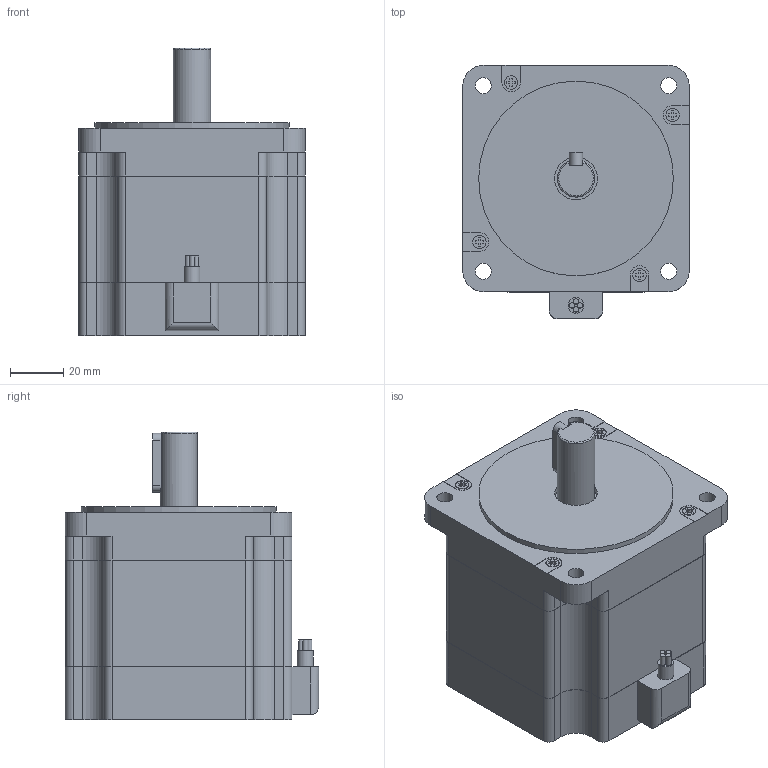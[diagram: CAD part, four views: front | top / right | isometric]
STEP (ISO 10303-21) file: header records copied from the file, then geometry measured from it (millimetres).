
FILE_DESCRIPTION(/* description */ (''),/* implementation_level */ '2;1');
FILE_NAME(/* name */ 'STC-86E17-0378.stp',/* time_stamp */ '2018-08-17T09:09:42+08:00',/* author */ (''),/* organization */ (''),/* preprocessor_version */ 'ST-DEVELOPER v11',/* originating_system */ 'SIEMENS UGS NX 6.0',/* authorisation */ '');
FILE_SCHEMA (('CONFIG_CONTROL_DESIGN'));
Length unit declared in the file: millimetre
Products named in the file (1): STC-86E17-0378
Bounding box: 85 x 95 x 108 mm (x, y, z)
Volume: 523.2 mm3; surface area: 43089.7 mm2
Topology: 1 solids, 2 shells, 201 faces, 543 edges, 364 vertices
Faces by surface type: plane 133, cylinder 67, torus 1
Full cylindrical faces by diameter (mm): 2 x4, 5 x4, 6 x5, 14 x2, 16 x1, 73.025 x1
Entity records: 6286 total; most frequent: CARTESIAN_POINT 1135, DIRECTION 1046, ORIENTED_EDGE 1028, EDGE_CURVE 514, LINE 378, VECTOR 378, VERTEX_POINT 353, AXIS2_PLACEMENT_3D 334
